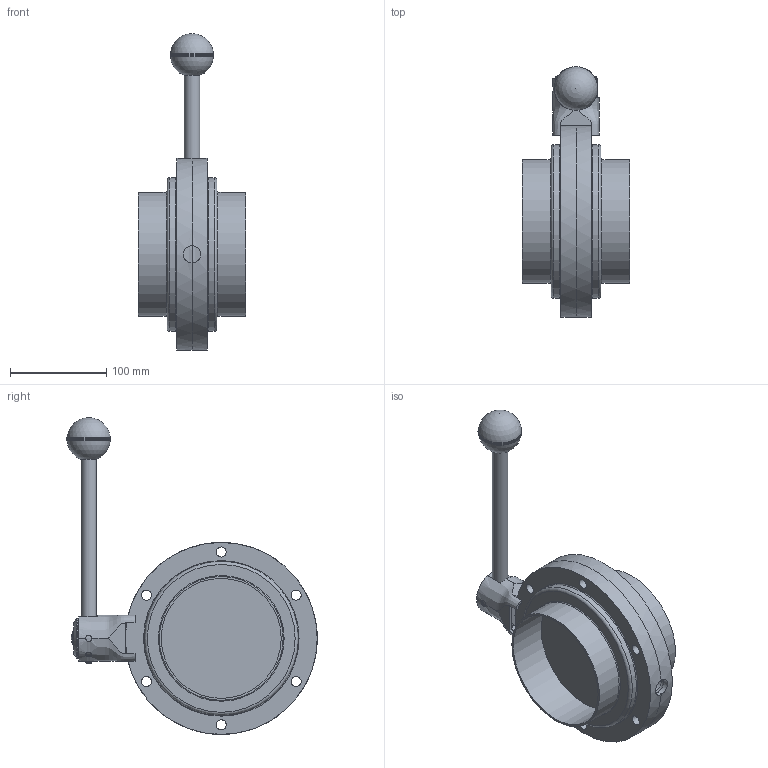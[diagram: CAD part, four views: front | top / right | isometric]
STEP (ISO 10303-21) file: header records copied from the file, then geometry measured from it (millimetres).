
FILE_DESCRIPTION(/* description */ ('VVFEX V.FARF.ATEX DN125(129X2) SS EPDM 316 LEVA INOX 3POS.'),/* implementation_level */ '2;1');
FILE_NAME(/* name */ 'C:\_DED_PWS\BORZ-A\DB\B\EBA\BEBACG125BEBW-00^SAGOMA.step',/* time_stamp */ '2023-06-28T13:50:46+02:00',/* author */ (''),/* organization */ (''),/* preprocessor_version */ 'ST-DEVELOPER v18.1',/* originating_system */ 'Autodesk Inventor 2022',/* authorisation */ '');
FILE_SCHEMA (('CONFIG_CONTROL_DESIGN'));
Length unit declared in the file: millimetre
Products named in the file (9): BEBACG125BEBW; TNU430150AAA; 3DAAZVFAP008; 3DAAZVFAP009; 3DAAZVFAP010; 3DAAZVFAP005; 3DAAZVFAP007; RBBAA06X16; TWD005125BBA
Assembly tree (9 placements, depth 3):
  BEBACG125BEBW
    TNU430150AAA
      3DAAZVFAP008
      3DAAZVFAP009
      3DAAZVFAP010
      3DAAZVFAP005
      3DAAZVFAP007
      RBBAA06X16
    TWD005125BBA  x2
Bounding box: 112 x 260.95 x 329.95 mm (x, y, z)
Volume: 1313002.8 mm3; surface area: 263244.4 mm2
Topology: 8 solids, 8 shells, 574 faces, 1387 edges, 918 vertices
Faces by surface type: plane 399, torus 95, cylinder 56, bspline 14, cone 6, sphere 4
Full cylindrical faces by diameter (mm): 6 x2, 6.5 x3, 6.9 x1, 9.3 x1, 10 x1, 10.5 x12, 10.8 x2, 11.1 x1, 11.4 x2, 11.8 x1, 13.4 x1, 16 x1, 16.1 x1, 16.2 x1, 19.8 x1, 20 x1, 20.5 x1, 42 x1, 125 x2, 129 x2, 160 x2, 200 x2
Entity records: 30342 total; most frequent: CARTESIAN_POINT 16851, DIRECTION 2840, ORIENTED_EDGE 2666, EDGE_CURVE 1333, AXIS2_PLACEMENT_3D 1178, VERTEX_POINT 884, EDGE_LOOP 669, CIRCLE 606
